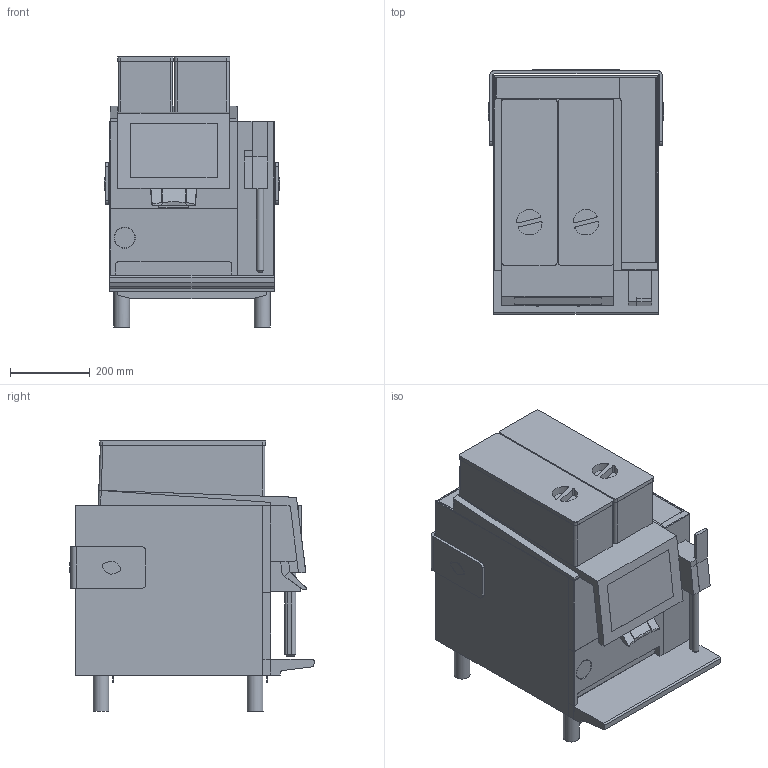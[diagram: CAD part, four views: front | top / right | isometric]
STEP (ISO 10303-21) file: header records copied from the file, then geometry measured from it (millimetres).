
FILE_DESCRIPTION(/* description */ ('Unknown'),/* implementation_level */ '2;1');
FILE_NAME(/* name */ 'HM_BW4-Competizione_V1',/* time_stamp */ '2026-08-19T10:04:03+02:00',/* author */ ('Unknown'),/* organization */ ('Unknown'),/* preprocessor_version */ 'ST-DEVELOPER v20',/* originating_system */ 'Solid Edge',/* authorisation */ 'Unknown');
FILE_SCHEMA (('AUTOMOTIVE_DESIGN {1 0 10303 214 3 1 1}'));
Length unit declared in the file: millimetre
Products named in the file (1): HM_BW4-Competizione
Bounding box: 439.2 x 612.99 x 677.65 mm (x, y, z)
Volume: 110316221.1 mm3; surface area: 2138256.4 mm2
Topology: 2 solids, 2 shells, 327 faces, 881 edges, 568 vertices
Faces by surface type: plane 241, cylinder 79, sphere 4, cone 2, torus 1
Full cylindrical faces by diameter (mm): 40 x4, 53 x1
Entity records: 12409 total; most frequent: CARTESIAN_POINT 1761, ORIENTED_EDGE 1736, DIRECTION 1698, EDGE_CURVE 868, LINE 694, VECTOR 694, VERTEX_POINT 565, AXIS2_PLACEMENT_3D 502
